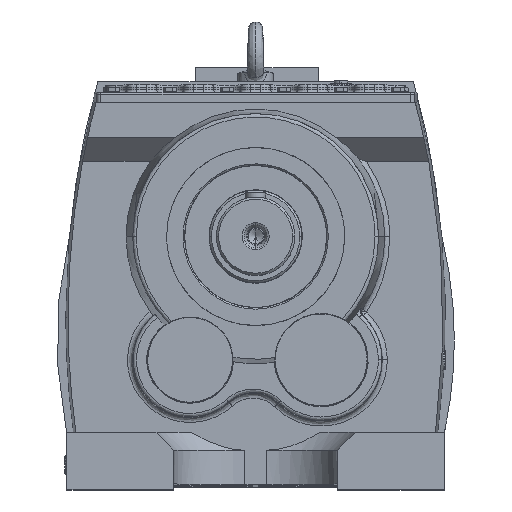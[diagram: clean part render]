
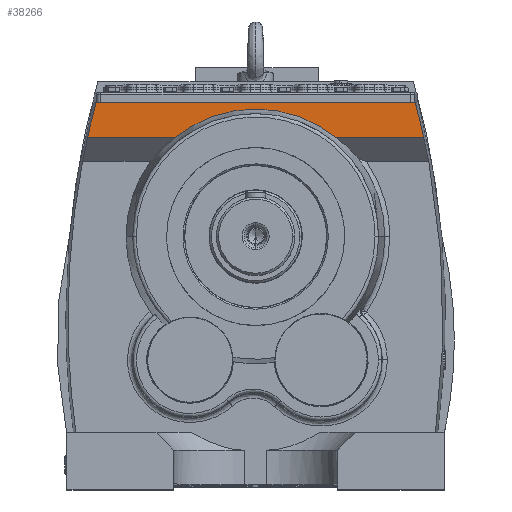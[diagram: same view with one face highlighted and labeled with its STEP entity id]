
A CAD part, top view. The second image highlights one B-rep face of the part: STEP entity #38266.
In plain terms, the highlighted planar face has unit normal (0, 0, 1).
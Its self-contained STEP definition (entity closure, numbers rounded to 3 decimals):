
#2032 = EDGE_LOOP ( 'NONE', ( #49066, #49082, #49035, #49059, #49062, #49057 ) ) ;
#3998 = DIRECTION ( 'NONE',  ( 1., 0., 0. ) ) ;
#4003 = DIRECTION ( 'NONE',  ( 0., 0., 1. ) ) ;
#4004 = PLANE ( 'NONE',  #33657 ) ;
#4018 = CARTESIAN_POINT ( 'NONE',  ( 933.285, -113.561, 220. ) ) ;
#14672 = VERTEX_POINT ( 'NONE', #66710 ) ;
#14735 = VERTEX_POINT ( 'NONE', #66202 ) ;
#14778 = VERTEX_POINT ( 'NONE', #66333 ) ;
#14799 = VERTEX_POINT ( 'NONE', #66325 ) ;
#16713 = FACE_OUTER_BOUND ( 'NONE', #2032, .T. ) ;
#22207 = AXIS2_PLACEMENT_3D ( 'NONE', #65235, #65254, #65221 ) ;
#22232 = AXIS2_PLACEMENT_3D ( 'NONE', #65191, #65175, #65192 ) ;
#30442 = EDGE_CURVE ( 'NONE', #63901, #63991, #60417, .T. ) ;
#32838 = AXIS2_PLACEMENT_3D ( 'NONE', #55655, #55786, #55769 ) ;
#33657 = AXIS2_PLACEMENT_3D ( 'NONE', #4018, #4003, #3998 ) ;
#38266 = ADVANCED_FACE ( 'NONE', ( #16713 ), #4004, .T. ) ;
#41761 = EDGE_CURVE ( 'NONE', #63901, #14735, #88474, .T. ) ;
#41768 = EDGE_CURVE ( 'NONE', #14672, #63991, #88539, .T. ) ;
#41898 = EDGE_CURVE ( 'NONE', #14778, #14799, #88670, .T. ) ;
#41911 = EDGE_CURVE ( 'NONE', #14778, #14735, #88631, .T. ) ;
#41937 = EDGE_CURVE ( 'NONE', #14672, #14799, #88697, .T. ) ;
#49035 = ORIENTED_EDGE ( 'NONE', *, *, #41898, .T. ) ;
#49057 = ORIENTED_EDGE ( 'NONE', *, *, #30442, .F. ) ;
#49059 = ORIENTED_EDGE ( 'NONE', *, *, #41937, .F. ) ;
#49062 = ORIENTED_EDGE ( 'NONE', *, *, #41768, .T. ) ;
#49066 = ORIENTED_EDGE ( 'NONE', *, *, #41761, .T. ) ;
#49082 = ORIENTED_EDGE ( 'NONE', *, *, #41911, .F. ) ;
#55655 = CARTESIAN_POINT ( 'NONE',  ( 0., 0., 220. ) ) ;
#55769 = DIRECTION ( 'NONE',  ( -1., 0., 0. ) ) ;
#55786 = DIRECTION ( 'NONE',  ( 0., 0., 1. ) ) ;
#58963 = CARTESIAN_POINT ( 'NONE',  ( -113.482, 138.576, 220. ) ) ;
#58967 = CARTESIAN_POINT ( 'NONE',  ( 113.482, 138.576, 220. ) ) ;
#60417 = CIRCLE ( 'NONE', #32838, 179.113 ) ;
#63109 = CARTESIAN_POINT ( 'NONE',  ( 933.285, 138.576, 220. ) ) ;
#63117 = DIRECTION ( 'NONE',  ( 1., 0., 0. ) ) ;
#63149 = DIRECTION ( 'NONE',  ( 1., 0., 0. ) ) ;
#63245 = CARTESIAN_POINT ( 'NONE',  ( 933.285, 138.576, 220. ) ) ;
#63901 = VERTEX_POINT ( 'NONE', #58967 ) ;
#63991 = VERTEX_POINT ( 'NONE', #58963 ) ;
#65149 = DIRECTION ( 'NONE',  ( -1., 0., 0. ) ) ;
#65154 = CARTESIAN_POINT ( 'NONE',  ( 250., 188., 220. ) ) ;
#65175 = DIRECTION ( 'NONE',  ( 0., 0., -1. ) ) ;
#65191 = CARTESIAN_POINT ( 'NONE',  ( -933.285, -113.561, 220. ) ) ;
#65192 = DIRECTION ( 'NONE',  ( -1., 0., 0. ) ) ;
#65221 = DIRECTION ( 'NONE',  ( -1., 0., 0. ) ) ;
#65235 = CARTESIAN_POINT ( 'NONE',  ( 933.285, -113.561, 220. ) ) ;
#65254 = DIRECTION ( 'NONE',  ( 0., 0., -1. ) ) ;
#66202 = CARTESIAN_POINT ( 'NONE',  ( 235.999, 138.576, 220. ) ) ;
#66325 = CARTESIAN_POINT ( 'NONE',  ( -224.238, 188., 220. ) ) ;
#66333 = CARTESIAN_POINT ( 'NONE',  ( 224.238, 188., 220. ) ) ;
#66710 = CARTESIAN_POINT ( 'NONE',  ( -235.999, 138.576, 220. ) ) ;
#88474 = LINE ( 'NONE', #63245, #88486 ) ;
#88486 = VECTOR ( 'NONE', #63149, 1000. ) ;
#88527 = VECTOR ( 'NONE', #63117, 1000. ) ;
#88539 = LINE ( 'NONE', #63109, #88527 ) ;
#88631 = CIRCLE ( 'NONE', #22232, 1196.16 ) ;
#88654 = VECTOR ( 'NONE', #65149, 1000. ) ;
#88670 = LINE ( 'NONE', #65154, #88654 ) ;
#88697 = CIRCLE ( 'NONE', #22207, 1196.16 ) ;
